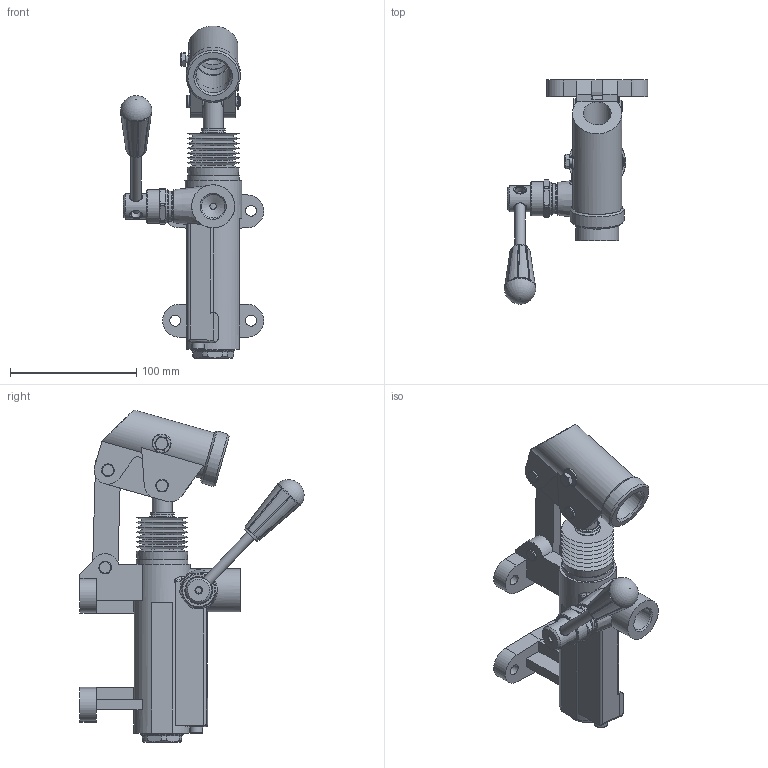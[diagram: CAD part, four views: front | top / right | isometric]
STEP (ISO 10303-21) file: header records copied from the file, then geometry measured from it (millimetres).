
FILE_DESCRIPTION(/* description */ ('Unknown'),/* implementation_level */ '2;1');
FILE_NAME(/* name */ 'HP50LS',/* time_stamp */ '2024-11-27T14:34:48+01:00',/* author */ ('Unknown'),/* organization */ ('Unknown'),/* preprocessor_version */ 'ST-DEVELOPER v19.4',/* originating_system */ 'Solid Edge',/* authorisation */ 'Unknown');
FILE_SCHEMA (('AUTOMOTIVE_DESIGN {1 0 10303 214 3 1 1}'));
Length unit declared in the file: millimetre
Products named in the file (1): HP50LS
Bounding box: 113.48 x 177.35 x 262.62 mm (x, y, z)
Volume: 136132.7 mm3; surface area: 146865 mm2
Topology: 7 solids, 8 shells, 609 faces, 1548 edges, 994 vertices
Faces by surface type: plane 281, cylinder 195, cone 100, torus 16, bspline 12, sphere 5
Full cylindrical faces by diameter (mm): 1.7 x2, 4.917 x1, 5 x2, 5.1 x5, 5.994 x5, 6 x1, 7.6 x1, 7.792 x6, 7.992 x1, 8 x4, 8.092 x6, 8.1 x5, 8.4 x1, 8.6 x4, 9.491 x1, 9.99 x3, 10 x4, 10.376 x1, 11 x1, 13.7 x1, 13.986 x1, 14.95 x1, 15 x1, 15.2 x1, 15.8 x1, 16 x1, 16.6 x2, 17 x2, 17.8 x1, 18.631 x3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
Entity records: 21338 total; most frequent: CARTESIAN_POINT 4829, DIRECTION 2872, ORIENTED_EDGE 2488, EDGE_CURVE 1244, AXIS2_PLACEMENT_3D 1154, FACE_BOUND 901, EDGE_LOOP 899, VERTEX_POINT 885
